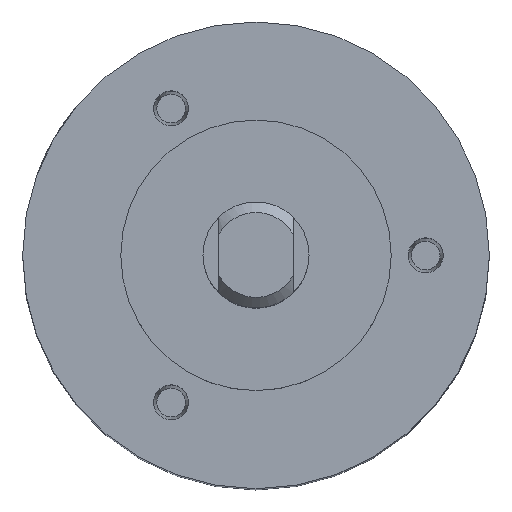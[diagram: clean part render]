
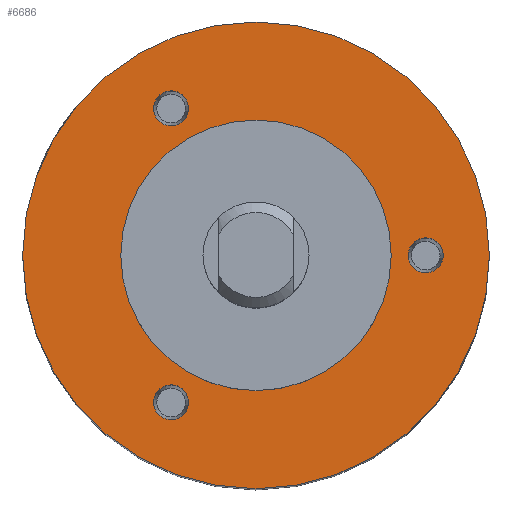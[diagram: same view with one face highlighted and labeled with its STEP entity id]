
A CAD part, top view. The second image highlights one B-rep face of the part: STEP entity #6686.
In plain terms, the highlighted planar face has unit normal (0, 0, 1).
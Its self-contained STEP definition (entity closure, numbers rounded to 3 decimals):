
#334 = EDGE_CURVE ( 'NONE', #6247, #6247, #1749, .T. ) ;
#339 = EDGE_CURVE ( 'NONE', #6257, #6257, #1755, .T. ) ;
#341 = EDGE_CURVE ( 'NONE', #6259, #6259, #1758, .T. ) ;
#344 = EDGE_CURVE ( 'NONE', #6261, #6261, #1763, .T. ) ;
#360 = EDGE_CURVE ( 'NONE', #6267, #6267, #1786, .T. ) ;
#646 = AXIS2_PLACEMENT_3D ( 'NONE', #3281, #3289, #3290 ) ;
#649 = AXIS2_PLACEMENT_3D ( 'NONE', #3263, #3270, #3271 ) ;
#657 = AXIS2_PLACEMENT_3D ( 'NONE', #3295, #3296, #3297 ) ;
#662 = AXIS2_PLACEMENT_3D ( 'NONE', #3278, #3284, #3285 ) ;
#670 = AXIS2_PLACEMENT_3D ( 'NONE', #3458, #3461, #3462 ) ;
#820 = AXIS2_PLACEMENT_3D ( 'NONE', #5218, #5224, #5225 ) ;
#1749 = CIRCLE ( 'NONE', #649, 1.65 ) ;
#1755 = CIRCLE ( 'NONE', #662, 1.65 ) ;
#1758 = CIRCLE ( 'NONE', #646, 1.65 ) ;
#1763 = CIRCLE ( 'NONE', #657, 12.75 ) ;
#1786 = CIRCLE ( 'NONE', #670, 22. ) ;
#3263 = CARTESIAN_POINT ( 'NONE',  ( -8., 13.856, 68.5 ) ) ;
#3270 = DIRECTION ( 'NONE',  ( 0., 0., -1. ) ) ;
#3271 = DIRECTION ( 'NONE',  ( 0., -1., 0. ) ) ;
#3278 = CARTESIAN_POINT ( 'NONE',  ( -8., -13.856, 68.5 ) ) ;
#3281 = CARTESIAN_POINT ( 'NONE',  ( 16., 0., 68.5 ) ) ;
#3284 = DIRECTION ( 'NONE',  ( 0., 0., -1. ) ) ;
#3285 = DIRECTION ( 'NONE',  ( 0., -1., 0. ) ) ;
#3289 = DIRECTION ( 'NONE',  ( 0., 0., -1. ) ) ;
#3290 = DIRECTION ( 'NONE',  ( 0., -1., 0. ) ) ;
#3295 = CARTESIAN_POINT ( 'NONE',  ( 0., 0., 68.5 ) ) ;
#3296 = DIRECTION ( 'NONE',  ( 0., 0., -1. ) ) ;
#3297 = DIRECTION ( 'NONE',  ( 0., 1., 0. ) ) ;
#3458 = CARTESIAN_POINT ( 'NONE',  ( 0., 0., 68.5 ) ) ;
#3461 = DIRECTION ( 'NONE',  ( 0., 0., -1. ) ) ;
#3462 = DIRECTION ( 'NONE',  ( 0., 1., 0. ) ) ;
#3596 = EDGE_LOOP ( 'NONE', ( #6856 ) ) ;
#3999 = EDGE_LOOP ( 'NONE', ( #6838 ) ) ;
#4007 = EDGE_LOOP ( 'NONE', ( #6826 ) ) ;
#4049 = EDGE_LOOP ( 'NONE', ( #6853 ) ) ;
#4114 = EDGE_LOOP ( 'NONE', ( #6839 ) ) ;
#5218 = CARTESIAN_POINT ( 'NONE',  ( 0., 0., 68.5 ) ) ;
#5221 = PLANE ( 'NONE',  #820 ) ;
#5224 = DIRECTION ( 'NONE',  ( 0., 0., 1. ) ) ;
#5225 = DIRECTION ( 'NONE',  ( 0., 1., 0. ) ) ;
#5614 = FACE_BOUND ( 'NONE', #4007, .T. ) ;
#5615 = FACE_OUTER_BOUND ( 'NONE', #3999, .T. ) ;
#5616 = FACE_BOUND ( 'NONE', #3596, .T. ) ;
#5619 = FACE_BOUND ( 'NONE', #4114, .T. ) ;
#5621 = FACE_BOUND ( 'NONE', #4049, .T. ) ;
#6247 = VERTEX_POINT ( 'NONE', #6248 ) ;
#6248 = CARTESIAN_POINT ( 'NONE',  ( -8., 12.206, 68.5 ) ) ;
#6257 = VERTEX_POINT ( 'NONE', #6258 ) ;
#6258 = CARTESIAN_POINT ( 'NONE',  ( -8., -15.506, 68.5 ) ) ;
#6259 = VERTEX_POINT ( 'NONE', #6260 ) ;
#6260 = CARTESIAN_POINT ( 'NONE',  ( 16., -1.65, 68.5 ) ) ;
#6261 = VERTEX_POINT ( 'NONE', #6262 ) ;
#6262 = CARTESIAN_POINT ( 'NONE',  ( 0., 12.75, 68.5 ) ) ;
#6267 = VERTEX_POINT ( 'NONE', #6268 ) ;
#6268 = CARTESIAN_POINT ( 'NONE',  ( 0., 22., 68.5 ) ) ;
#6686 = ADVANCED_FACE ( 'NONE', ( #5615, #5614, #5619, #5621, #5616 ), #5221, .T. ) ;
#6826 = ORIENTED_EDGE ( 'NONE', *, *, #344, .T. ) ;
#6838 = ORIENTED_EDGE ( 'NONE', *, *, #360, .F. ) ;
#6839 = ORIENTED_EDGE ( 'NONE', *, *, #341, .T. ) ;
#6853 = ORIENTED_EDGE ( 'NONE', *, *, #334, .T. ) ;
#6856 = ORIENTED_EDGE ( 'NONE', *, *, #339, .T. ) ;
